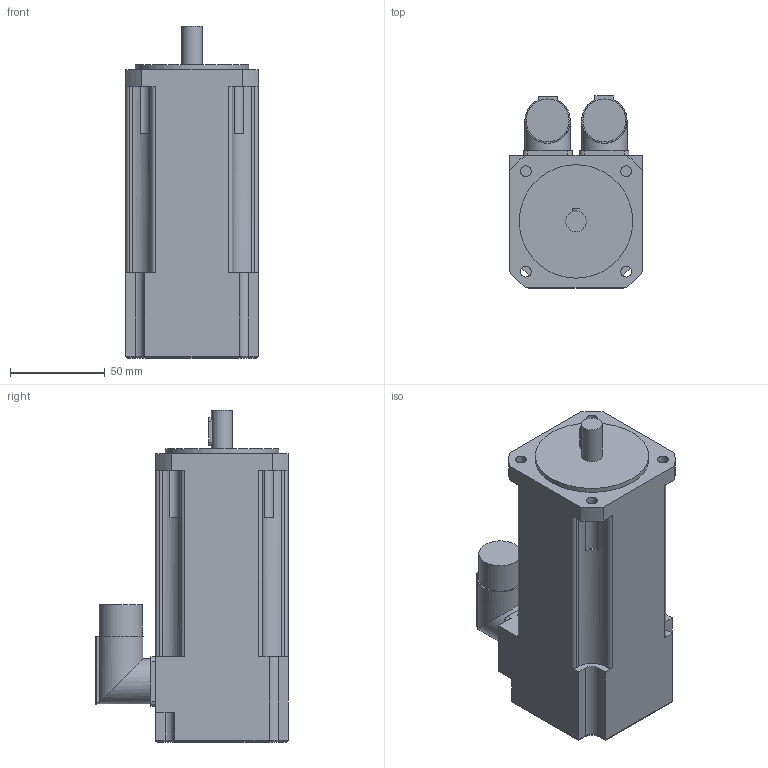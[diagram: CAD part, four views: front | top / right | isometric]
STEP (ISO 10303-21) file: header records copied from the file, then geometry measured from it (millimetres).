
FILE_DESCRIPTION(/* description */ (''),/* implementation_level */ '2;1');
FILE_NAME(/* name */ '\\Lafnas01\disegni\Archivi Lafert\3D\CAD 3D\MODELLI\Assiemi clienti\Serad\Modelli 3D Serad\B36Q\Encoder\Enc Without Brake\B36E8Qxx6ARx2033.ipt.stp',/* time_stamp */ '2015-09-07T10:49:25+02:00',/* author */ ('Pastrello Ylenia'),/* organization */ (''),/* preprocessor_version */ 'ST-DEVELOPER v15.6',/* originating_system */ 'Autodesk Inventor 2015',/* authorisation */ '');
FILE_SCHEMA (('AUTOMOTIVE_DESIGN { 1 0 10303 214 3 1 1 }'));
Length unit declared in the file: millimetre
Products named in the file (1): B36E8Qxx6ARx2033
Bounding box: 70 x 101.5 x 175.5 mm (x, y, z)
Volume: 731747.8 mm3; surface area: 61272 mm2
Topology: 1 solids, 1 shells, 121 faces, 322 edges, 210 vertices
Faces by surface type: plane 59, cylinder 58, torus 4
Full cylindrical faces by diameter (mm): 5.8 x4, 11 x1, 22.7 x2, 24 x2, 60 x1
Entity records: 3806 total; most frequent: CARTESIAN_POINT 678, DIRECTION 676, ORIENTED_EDGE 624, EDGE_CURVE 312, AXIS2_PLACEMENT_3D 244, VERTEX_POINT 210, LINE 188, VECTOR 188
